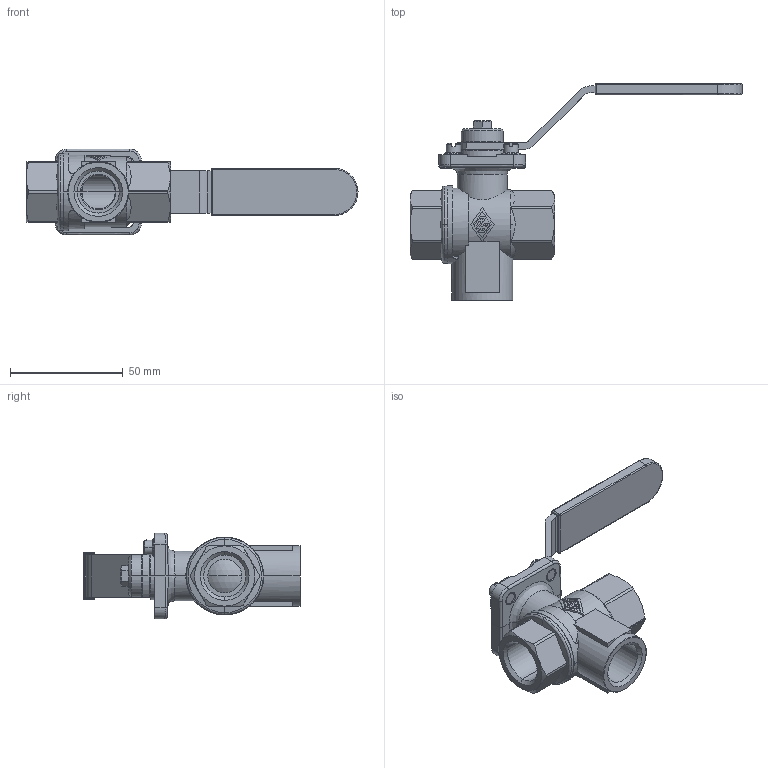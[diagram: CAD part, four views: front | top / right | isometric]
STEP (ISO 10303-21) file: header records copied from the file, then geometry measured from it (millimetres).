
FILE_DESCRIPTION(('CoCreate Modeling STEP Export'),'2;1');
FILE_NAME('3210040000.stp','2010-11-25T11:32:30',(''),(''),'CoCreate Modeling STEP processor for AP214 (Solid Model)','CoCreate Modeling 16.00D 29-May-2009 (C) Parametric Technology GmbH','');
FILE_SCHEMA(('AUTOMOTIVE_DESIGN { 1 0 10303 214 1 1 1 1 }'));
Length unit declared in the file: millimetre
Products named in the file (2): 3210040000
Assembly tree (1 placements, depth 2):
  3210040000
    3210040000
Bounding box: 147 x 96 x 38 mm (x, y, z)
Volume: 61085.1 mm3; surface area: 24739.5 mm2
Topology: 1 solids, 1 shells, 429 faces, 1137 edges, 728 vertices
Faces by surface type: plane 191, cylinder 157, cone 52, torus 11, bspline 10, sphere 6, extrusion 2
Entity records: 20756 total; most frequent: CARTESIAN_POINT 10166, ORIENTED_EDGE 2262, DIRECTION 1633, EDGE_CURVE 1131, VERTEX_POINT 728, VECTOR 585, LINE 583, AXIS2_PLACEMENT_3D 524
